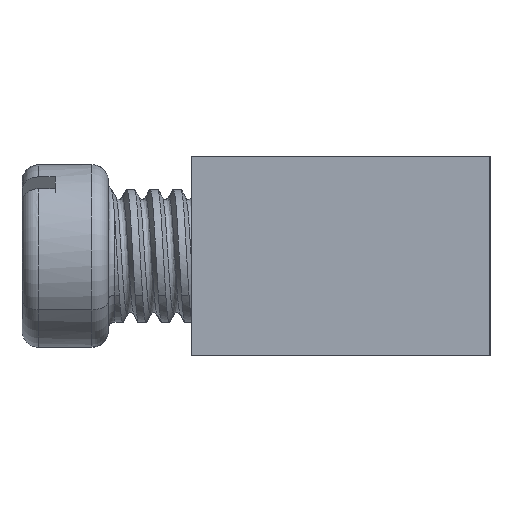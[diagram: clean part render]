
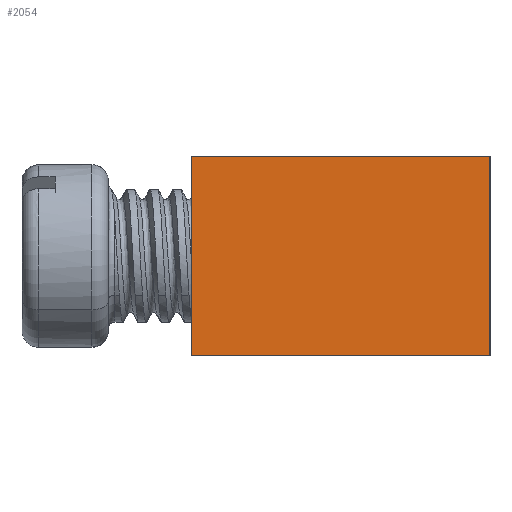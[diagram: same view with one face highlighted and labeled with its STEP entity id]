
A CAD part, left-side view. The second image highlights one B-rep face of the part: STEP entity #2054.
In plain terms, the highlighted planar face has unit normal (-1, 0, 0).
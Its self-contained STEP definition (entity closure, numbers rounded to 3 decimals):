
#319 = FACE_OUTER_BOUND ( 'NONE', #3304, .T. ) ;
#342 = AXIS2_PLACEMENT_3D ( 'NONE', #1674, #3735, #675 ) ;
#557 = CARTESIAN_POINT ( 'NONE',  ( 0., 0., 0. ) ) ;
#615 = DIRECTION ( 'NONE',  ( 0., 0., 1. ) ) ;
#629 = VERTEX_POINT ( 'NONE', #557 ) ;
#675 = DIRECTION ( 'NONE',  ( 0., 0., 1. ) ) ;
#814 = ORIENTED_EDGE ( 'NONE', *, *, #2721, .F. ) ;
#968 = VERTEX_POINT ( 'NONE', #4381 ) ;
#1005 = VERTEX_POINT ( 'NONE', #4405 ) ;
#1441 = EDGE_CURVE ( 'NONE', #5572, #629, #5658, .T. ) ;
#1674 = CARTESIAN_POINT ( 'NONE',  ( 0., 0., -6. ) ) ;
#1705 = DIRECTION ( 'NONE',  ( 0., -1., 0. ) ) ;
#1904 = VECTOR ( 'NONE', #1705, 1000. ) ;
#2054 = ADVANCED_FACE ( 'NONE', ( #319 ), #3657, .T. ) ;
#2125 = DIRECTION ( 'NONE',  ( 0., 0., 1. ) ) ;
#2252 = EDGE_CURVE ( 'NONE', #968, #5572, #4991, .T. ) ;
#2721 = EDGE_CURVE ( 'NONE', #968, #1005, #5070, .T. ) ;
#2942 = VECTOR ( 'NONE', #2125, 1000. ) ;
#3082 = ORIENTED_EDGE ( 'NONE', *, *, #1441, .T. ) ;
#3180 = EDGE_CURVE ( 'NONE', #1005, #629, #5818, .T. ) ;
#3304 = EDGE_LOOP ( 'NONE', ( #5804, #814, #4393, #3082 ) ) ;
#3657 = PLANE ( 'NONE',  #342 ) ;
#3673 = CARTESIAN_POINT ( 'NONE',  ( 0., 9., -6. ) ) ;
#3735 = DIRECTION ( 'NONE',  ( -1., 0., 0. ) ) ;
#3786 = CARTESIAN_POINT ( 'NONE',  ( 0., 0., 0. ) ) ;
#4288 = CARTESIAN_POINT ( 'NONE',  ( 0., 0., -6. ) ) ;
#4381 = CARTESIAN_POINT ( 'NONE',  ( 0., 9., -6. ) ) ;
#4393 = ORIENTED_EDGE ( 'NONE', *, *, #2252, .T. ) ;
#4405 = CARTESIAN_POINT ( 'NONE',  ( 0., 9., 0. ) ) ;
#4815 = DIRECTION ( 'NONE',  ( 0., -1., 0. ) ) ;
#4951 = CARTESIAN_POINT ( 'NONE',  ( 0., 0., -6. ) ) ;
#4991 = LINE ( 'NONE', #4288, #6336 ) ;
#5070 = LINE ( 'NONE', #3673, #5216 ) ;
#5192 = CARTESIAN_POINT ( 'NONE',  ( 0., 0., -6. ) ) ;
#5216 = VECTOR ( 'NONE', #615, 1000. ) ;
#5572 = VERTEX_POINT ( 'NONE', #4951 ) ;
#5658 = LINE ( 'NONE', #5192, #2942 ) ;
#5804 = ORIENTED_EDGE ( 'NONE', *, *, #3180, .F. ) ;
#5818 = LINE ( 'NONE', #3786, #1904 ) ;
#6336 = VECTOR ( 'NONE', #4815, 1000. ) ;
